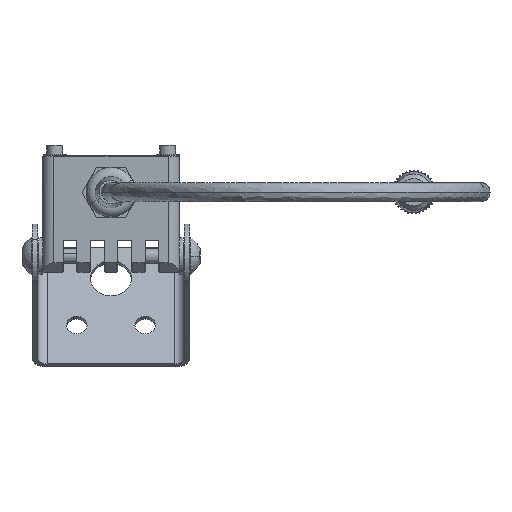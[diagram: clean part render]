
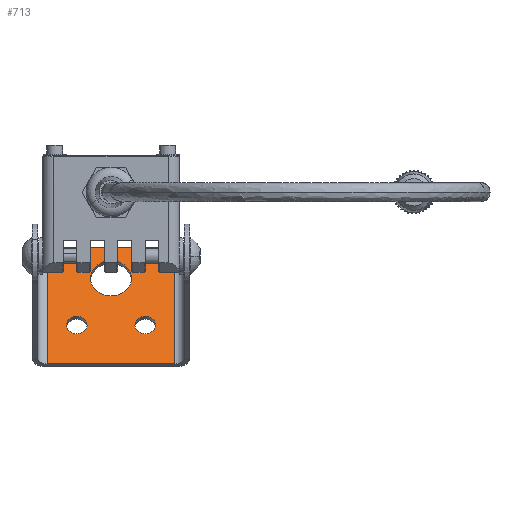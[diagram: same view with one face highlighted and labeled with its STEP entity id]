
A CAD part, front view. The second image highlights one B-rep face of the part: STEP entity #713.
In plain terms, the highlighted planar face has unit normal (0, -0.853, 0.523).
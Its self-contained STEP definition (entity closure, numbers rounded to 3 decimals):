
#665 = EDGE_CURVE ( 'NONE', #666, #725, #8835, .T. ) ;
#666 = VERTEX_POINT ( 'NONE', #8831 ) ;
#701 = EDGE_CURVE ( 'NONE', #735, #725, #9041, .T. ) ;
#702 = ORIENTED_EDGE ( 'NONE', *, *, #712, .T. ) ;
#704 = ORIENTED_EDGE ( 'NONE', *, *, #705, .F. ) ;
#705 = EDGE_CURVE ( 'NONE', #666, #710, #9042, .T. ) ;
#706 = ORIENTED_EDGE ( 'NONE', *, *, #665, .T. ) ;
#710 = VERTEX_POINT ( 'NONE', #8941 ) ;
#712 = EDGE_CURVE ( 'NONE', #735, #710, #8938, .T. ) ;
#713 = ADVANCED_FACE ( 'NONE', ( #8934, #8933, #8932, #8931 ), #8865, .F. ) ;
#714 = EDGE_LOOP ( 'NONE', ( #715, #717 ) ) ;
#715 = ORIENTED_EDGE ( 'NONE', *, *, #716, .T. ) ;
#716 = EDGE_CURVE ( 'NONE', #806, #805, #8864, .T. ) ;
#717 = ORIENTED_EDGE ( 'NONE', *, *, #804, .T. ) ;
#718 = EDGE_LOOP ( 'NONE', ( #719, #1087 ) ) ;
#719 = ORIENTED_EDGE ( 'NONE', *, *, #720, .T. ) ;
#720 = EDGE_CURVE ( 'NONE', #924, #923, #8968, .T. ) ;
#725 = VERTEX_POINT ( 'NONE', #8960 ) ;
#735 = VERTEX_POINT ( 'NONE', #8975 ) ;
#804 = EDGE_CURVE ( 'NONE', #805, #806, #9302, .T. ) ;
#805 = VERTEX_POINT ( 'NONE', #9314 ) ;
#806 = VERTEX_POINT ( 'NONE', #9436 ) ;
#922 = EDGE_CURVE ( 'NONE', #923, #924, #9722, .T. ) ;
#923 = VERTEX_POINT ( 'NONE', #9713 ) ;
#924 = VERTEX_POINT ( 'NONE', #9712 ) ;
#957 = EDGE_CURVE ( 'NONE', #958, #959, #9811, .T. ) ;
#958 = VERTEX_POINT ( 'NONE', #9826 ) ;
#959 = VERTEX_POINT ( 'NONE', #9822 ) ;
#985 = ORIENTED_EDGE ( 'NONE', *, *, #957, .T. ) ;
#1087 = ORIENTED_EDGE ( 'NONE', *, *, #922, .T. ) ;
#1153 = ORIENTED_EDGE ( 'NONE', *, *, #701, .F. ) ;
#1154 = EDGE_LOOP ( 'NONE', ( #1153, #702, #704, #706 ) ) ;
#1217 = EDGE_LOOP ( 'NONE', ( #1218, #985 ) ) ;
#1218 = ORIENTED_EDGE ( 'NONE', *, *, #1219, .T. ) ;
#1219 = EDGE_CURVE ( 'NONE', #959, #958, #19917, .T. ) ;
#8831 = CARTESIAN_POINT ( 'NONE',  ( -25.987, 57.287, -10.26 ) ) ;
#8832 = DIRECTION ( 'NONE',  ( -1., 0., 0. ) ) ;
#8833 = VECTOR ( 'NONE', #8832, 1000. ) ;
#8834 = CARTESIAN_POINT ( 'NONE',  ( -55.987, 57.287, -10.26 ) ) ;
#8835 = LINE ( 'NONE', #8834, #8833 ) ;
#8858 = CARTESIAN_POINT ( 'NONE',  ( -32.487, 46.832, -27.31 ) ) ;
#8859 = AXIS2_PLACEMENT_3D ( 'NONE', #8858, #8970, #8969 ) ;
#8860 = DIRECTION ( 'NONE',  ( 0., 0.523, 0.853 ) ) ;
#8861 = DIRECTION ( 'NONE',  ( 0., 0.853, -0.523 ) ) ;
#8862 = CARTESIAN_POINT ( 'NONE',  ( -23.987, 57.287, -10.26 ) ) ;
#8863 = AXIS2_PLACEMENT_3D ( 'NONE', #8862, #8861, #8860 ) ;
#8864 = CIRCLE ( 'NONE', #8859, 2.25 ) ;
#8865 = PLANE ( 'NONE',  #8863 ) ;
#8884 = DIRECTION ( 'NONE',  ( 0., -0.523, -0.853 ) ) ;
#8885 = VECTOR ( 'NONE', #8884, 1000. ) ;
#8887 = CARTESIAN_POINT ( 'NONE',  ( -25.987, 57.287, -10.26 ) ) ;
#8931 = FACE_OUTER_BOUND ( 'NONE', #1154, .T. ) ;
#8932 = FACE_BOUND ( 'NONE', #1217, .T. ) ;
#8933 = FACE_BOUND ( 'NONE', #718, .T. ) ;
#8934 = FACE_BOUND ( 'NONE', #714, .T. ) ;
#8935 = DIRECTION ( 'NONE',  ( 1., 0., 0. ) ) ;
#8936 = VECTOR ( 'NONE', #8935, 1000. ) ;
#8937 = CARTESIAN_POINT ( 'NONE',  ( -55.987, 41.605, -35.835 ) ) ;
#8938 = LINE ( 'NONE', #8937, #8936 ) ;
#8941 = CARTESIAN_POINT ( 'NONE',  ( -25.987, 41.605, -35.835 ) ) ;
#8960 = CARTESIAN_POINT ( 'NONE',  ( -53.987, 57.287, -10.26 ) ) ;
#8963 = DIRECTION ( 'NONE',  ( 0., 0.523, 0.853 ) ) ;
#8965 = DIRECTION ( 'NONE',  ( 0., 0.853, -0.523 ) ) ;
#8966 = CARTESIAN_POINT ( 'NONE',  ( -47.487, 46.832, -27.31 ) ) ;
#8967 = AXIS2_PLACEMENT_3D ( 'NONE', #8966, #8965, #8963 ) ;
#8968 = CIRCLE ( 'NONE', #8967, 2.25 ) ;
#8969 = DIRECTION ( 'NONE',  ( 0., 0.523, 0.853 ) ) ;
#8970 = DIRECTION ( 'NONE',  ( 0., 0.853, -0.523 ) ) ;
#8975 = CARTESIAN_POINT ( 'NONE',  ( -53.987, 41.605, -35.835 ) ) ;
#9038 = DIRECTION ( 'NONE',  ( 0., 0.523, 0.853 ) ) ;
#9039 = VECTOR ( 'NONE', #9038, 1000. ) ;
#9040 = CARTESIAN_POINT ( 'NONE',  ( -53.987, 41.605, -35.835 ) ) ;
#9041 = LINE ( 'NONE', #9040, #9039 ) ;
#9042 = LINE ( 'NONE', #8887, #8885 ) ;
#9262 = AXIS2_PLACEMENT_3D ( 'NONE', #9321, #9285, #9325 ) ;
#9285 = DIRECTION ( 'NONE',  ( 0., 0.853, -0.523 ) ) ;
#9302 = CIRCLE ( 'NONE', #9262, 2.25 ) ;
#9314 = CARTESIAN_POINT ( 'NONE',  ( -32.487, 45.656, -29.228 ) ) ;
#9321 = CARTESIAN_POINT ( 'NONE',  ( -32.487, 46.832, -27.31 ) ) ;
#9325 = DIRECTION ( 'NONE',  ( 0., 0.523, 0.853 ) ) ;
#9436 = CARTESIAN_POINT ( 'NONE',  ( -32.487, 48.008, -25.392 ) ) ;
#9712 = CARTESIAN_POINT ( 'NONE',  ( -47.487, 48.008, -25.392 ) ) ;
#9713 = CARTESIAN_POINT ( 'NONE',  ( -47.487, 45.656, -29.228 ) ) ;
#9714 = DIRECTION ( 'NONE',  ( 0., 0.523, 0.853 ) ) ;
#9715 = DIRECTION ( 'NONE',  ( 0., 0.853, -0.523 ) ) ;
#9716 = CARTESIAN_POINT ( 'NONE',  ( -47.487, 46.832, -27.31 ) ) ;
#9717 = AXIS2_PLACEMENT_3D ( 'NONE', #9716, #9715, #9714 ) ;
#9722 = CIRCLE ( 'NONE', #9717, 2.25 ) ;
#9810 = CARTESIAN_POINT ( 'NONE',  ( -39.987, 53.105, -17.08 ) ) ;
#9811 = CIRCLE ( 'NONE', #9824, 4.5 ) ;
#9822 = CARTESIAN_POINT ( 'NONE',  ( -39.987, 55.457, -13.244 ) ) ;
#9823 = DIRECTION ( 'NONE',  ( 0., 0.523, 0.853 ) ) ;
#9824 = AXIS2_PLACEMENT_3D ( 'NONE', #9810, #9827, #9823 ) ;
#9826 = CARTESIAN_POINT ( 'NONE',  ( -39.987, 50.753, -20.916 ) ) ;
#9827 = DIRECTION ( 'NONE',  ( 0., 0.853, -0.523 ) ) ;
#19913 = DIRECTION ( 'NONE',  ( 0., 0.523, 0.853 ) ) ;
#19914 = DIRECTION ( 'NONE',  ( 0., 0.853, -0.523 ) ) ;
#19915 = CARTESIAN_POINT ( 'NONE',  ( -39.987, 53.105, -17.08 ) ) ;
#19916 = AXIS2_PLACEMENT_3D ( 'NONE', #19915, #19914, #19913 ) ;
#19917 = CIRCLE ( 'NONE', #19916, 4.5 ) ;
